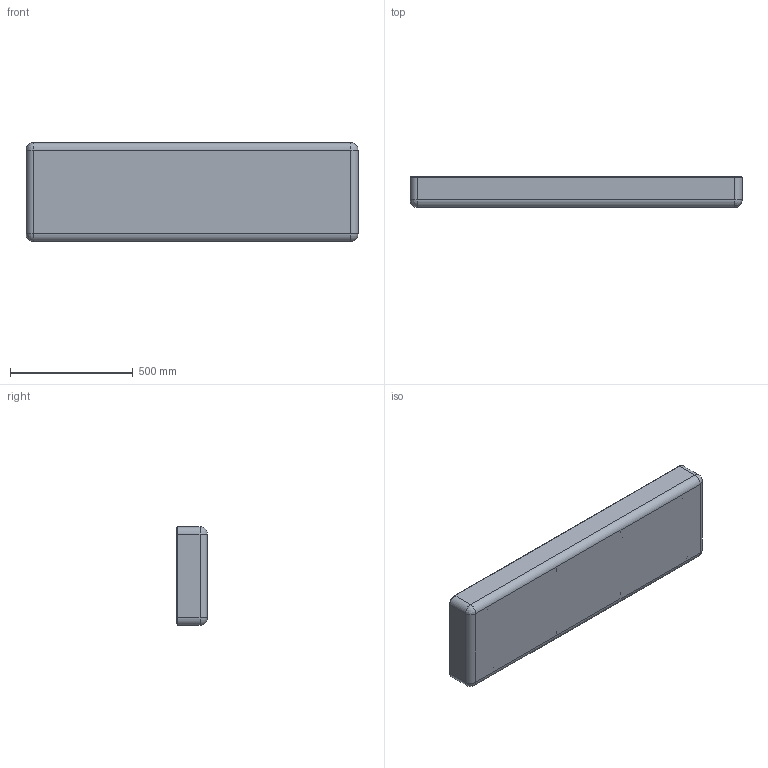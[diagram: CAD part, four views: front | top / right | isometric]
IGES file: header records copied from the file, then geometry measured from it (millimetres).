
Start section: SolidWorks IGES file using analytic representation for surfaces
Global section: file name: \\SBS\Data\NANUK\NANUK Marketing\NANUK Technical Drawings\3D Files\IGES\995\995_Bottom_INNER_SURFACES.IGS; native system: SolidWorks 2014; preprocessor: SolidWorks 2014; author: dposada; date: 150203.113903; units: millimetre
Bounding box: 1352.55 x 125.2 x 402.09 mm (x, y, z)
Surface area: 1828804.9 mm2 (no closed solid volume)
Topology: 0 solids, 0 shells, 1697 faces, 14599 edges, 14499 vertices
Faces by surface type: bspline 1209, revolution 488
